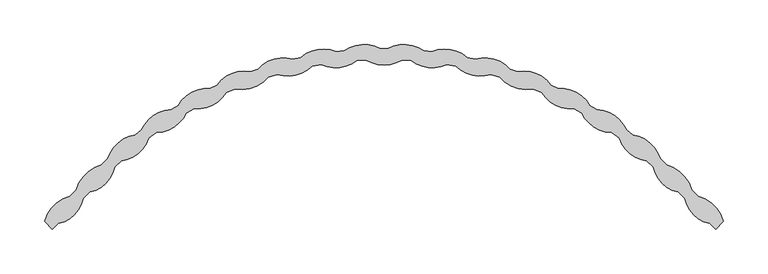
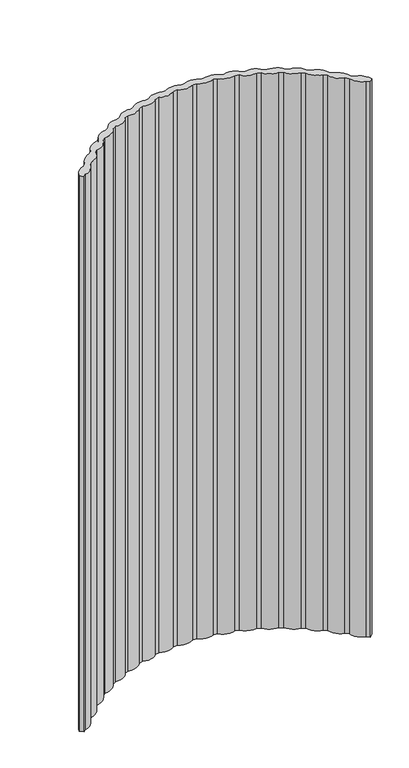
"""IFC4 building model written with IfcOpenShell, lengths in millimetres: furniture geometry, KFI Studios - Calm - Curved Screen : KFI Studios - Calm - Curved Screen."""

from ifc_helpers import new_model, si_unit, point, frame, frame_2d, origin, place, context, project, spatial, polyline, circle_curve, trimmed, segment, composite_curve, outline, extrude, source, transform, mapped, element, save


def furniture_e89c4618(model_context):
    return source(origin(), model_context, "Body", "SweptSolid", [
        extrude(outline(composite_curve([segment(polyline([(337.1527127, -64.1553182), (330.0816327, -57.0840929)]), True, "CONTINUOUS"), segment(trimmed(circle_curve(frame_2d((337.4314511, -21.4497808)), 36.3843926), [point((330.0816327, -57.0840929))], [point((301.8470734, -29.0376716))], False, "CARTESIAN"), True, "CONTINUOUS"), segment(polyline([(301.8470734, -29.0376716), (294.3702042, -22.085214)]), True, "CONTINUOUS"), segment(trimmed(circle_curve(frame_2d((300.3615651, 16.5029535)), 39.0505195), [point((294.3702042, -22.085214))], [point((263.5644356, 3.4295327))], False, "CARTESIAN"), True, "CONTINUOUS"), segment(polyline([(263.5644356, 3.4295327), (255.1727966, 9.6012978)]), True, "CONTINUOUS"), segment(trimmed(circle_curve(frame_2d((256.5646207, 48.4304048)), 38.8540438), [point((255.1727966, 9.6012978))], [point((221.6387062, 31.406386))], False, "CARTESIAN"), True, "CONTINUOUS"), segment(polyline([(221.6387062, 31.406386), (212.593328, 36.5727381)]), True, "CONTINUOUS"), segment(trimmed(circle_curve(frame_2d((209.5123052, 75.3041337)), 38.8537476), [point((212.593328, 36.5727381))], [point((176.7749657, 54.378544))], False, "CARTESIAN"), True, "CONTINUOUS"), segment(polyline([(176.7749657, 54.378544), (167.1959537, 58.4704908)]), True, "CONTINUOUS"), segment(trimmed(circle_curve(frame_2d((160.1402513, 97.8551419)), 40.0116693), [point((167.1959537, 58.4704908))], [point((129.5684448, 72.0423868))], False, "CARTESIAN"), True, "CONTINUOUS"), segment(polyline([(129.5684448, 72.0423868), (119.5823356, 75.0067543)]), True, "CONTINUOUS"), segment(trimmed(circle_curve(frame_2d((107.7390173, 112.0121702)), 38.8544076), [point((119.5823356, 75.0067543))], [point((80.6445961, 84.1633402))], False, "CARTESIAN"), True, "CONTINUOUS"), segment(polyline([(80.6445961, 84.1633402), (70.3838352, 85.9601419)]), True, "CONTINUOUS"), segment(trimmed(circle_curve(frame_2d((54.3653493, 121.358528)), 38.8540555), [point((70.3838352, 85.9601419))], [point((30.6516174, 90.580345))], False, "CARTESIAN"), True, "CONTINUOUS"), segment(polyline([(30.6516174, 90.580345), (20.2522999, 91.1860311)]), True, "CONTINUOUS"), segment(trimmed(circle_curve(frame_2d((0.0, 125.4904344)), 39.8365126), [point((20.2522999, 91.1860311))], [point((-20.2522999, 91.1860311))], False, "CARTESIAN"), True, "CONTINUOUS"), segment(polyline([(-20.2522999, 91.1860311), (-30.6516174, 90.580345)]), True, "CONTINUOUS"), segment(trimmed(circle_curve(frame_2d((-54.3653493, 121.358528)), 38.8540555), [point((-30.6516174, 90.580345))], [point((-70.3838352, 85.9601419))], False, "CARTESIAN"), True, "CONTINUOUS"), segment(polyline([(-70.3838352, 85.9601419), (-80.6445961, 84.1633402)]), True, "CONTINUOUS"), segment(trimmed(circle_curve(frame_2d((-107.7390173, 112.0121702)), 38.8544076), [point((-80.6445961, 84.1633402))], [point((-119.5823356, 75.0067543))], False, "CARTESIAN"), True, "CONTINUOUS"), segment(polyline([(-119.5823356, 75.0067543), (-129.5684448, 72.0423868)]), True, "CONTINUOUS"), segment(trimmed(circle_curve(frame_2d((-160.1402513, 97.8551419)), 40.0116693), [point((-129.5684448, 72.0423868))], [point((-167.1959537, 58.4704908))], False, "CARTESIAN"), True, "CONTINUOUS"), segment(polyline([(-167.1959537, 58.4704908), (-176.7749657, 54.378544)]), True, "CONTINUOUS"), segment(trimmed(circle_curve(frame_2d((-209.5123052, 75.3041337)), 38.8537476), [point((-176.7749657, 54.378544))], [point((-212.593328, 36.5727381))], False, "CARTESIAN"), True, "CONTINUOUS"), segment(polyline([(-212.593328, 36.5727381), (-221.6387062, 31.406386)]), True, "CONTINUOUS"), segment(trimmed(circle_curve(frame_2d((-256.5646207, 48.4304048)), 38.8540438), [point((-221.6387062, 31.406386))], [point((-255.1727966, 9.6012978))], False, "CARTESIAN"), True, "CONTINUOUS"), segment(polyline([(-255.1727966, 9.6012978), (-263.5644356, 3.4295327)]), True, "CONTINUOUS"), segment(trimmed(circle_curve(frame_2d((-300.3615651, 16.5029535)), 39.0505195), [point((-263.5644356, 3.4295327))], [point((-294.3702042, -22.085214))], False, "CARTESIAN"), True, "CONTINUOUS"), segment(polyline([(-294.3702042, -22.085214), (-301.8470734, -29.0376716)]), True, "CONTINUOUS"), segment(trimmed(circle_curve(frame_2d((-337.4314511, -21.4497808)), 36.3843926), [point((-301.8470734, -29.0376716))], [point((-330.0816327, -57.0840929))], False, "CARTESIAN"), True, "CONTINUOUS"), segment(polyline([(-330.0816327, -57.0840929), (-337.1527127, -64.1553182)]), True, "CONTINUOUS"), segment(trimmed(circle_curve(frame_2d((-372.9274756, -56.6648274)), 36.5505282), [point((-337.1527127, -64.1553182))], [point((-365.4371055, -92.4396156))], False, "CARTESIAN"), True, "CONTINUOUS"), segment(polyline([(-365.4371055, -92.4396156), (-371.7967875, -98.7993794), (-380.4705843, -90.1256114)]), True, "CONTINUOUS"), segment(trimmed(circle_curve(frame_2d((-341.824443, -100.5009291)), 40.0146405), [point((-380.4705843, -90.1256114))], [point((-352.1893316, -61.8519895))], False, "CARTESIAN"), True, "CONTINUOUS"), segment(polyline([(-352.1893316, -61.8519895), (-345.1184632, -54.7810976)]), True, "CONTINUOUS"), segment(trimmed(circle_curve(frame_2d((-304.7440758, -66.8760921)), 42.1471239), [point((-345.1184632, -54.7810976))], [point((-316.7590226, -26.4778111))], False, "CARTESIAN"), True, "CONTINUOUS"), segment(polyline([(-316.7590226, -26.4778111), (-309.5767443, -19.51799)]), True, "CONTINUOUS"), segment(trimmed(circle_curve(frame_2d((-273.3319426, -30.4639475)), 37.8615852), [point((-309.5767443, -19.51799))], [point((-278.9842011, 6.9733548))], False, "CARTESIAN"), True, "CONTINUOUS"), segment(polyline([(-278.9842011, 6.9733548), (-271.8628517, 12.4843063)]), True, "CONTINUOUS"), segment(trimmed(circle_curve(frame_2d((-237.0407207, -2.3773242)), 37.8609148), [point((-271.8628517, 12.4843063))], [point((-238.5501501, 35.4534898))], False, "CARTESIAN"), True, "CONTINUOUS"), segment(polyline([(-238.5501501, 35.4534898), (-230.8668229, 40.1496426)]), True, "CONTINUOUS"), segment(trimmed(circle_curve(frame_2d((-197.884941, 21.5551663)), 37.8623703), [point((-230.8668229, 40.1496426))], [point((-195.2353334, 59.3247131))], False, "CARTESIAN"), True, "CONTINUOUS"), segment(polyline([(-195.2353334, 59.3247131), (-187.0837542, 63.1498246)]), True, "CONTINUOUS"), segment(trimmed(circle_curve(frame_2d((-156.3405113, 41.0457581)), 37.8647163), [point((-187.0837542, 63.1498246))], [point((-149.562428, 78.2988698))], False, "CARTESIAN"), True, "CONTINUOUS"), segment(polyline([(-149.562428, 78.2988698), (-141.0398474, 81.2060925)]), True, "CONTINUOUS"), segment(trimmed(circle_curve(frame_2d((-112.9088262, 55.8652257)), 37.8617734), [point((-141.0398474, 81.2060925))], [point((-102.0830148, 92.1462909))], False, "CARTESIAN"), True, "CONTINUOUS"), segment(polyline([(-102.0830148, 92.1462909), (-93.2929056, 94.1007702)]), True, "CONTINUOUS"), segment(trimmed(circle_curve(frame_2d((-67.7020896, 63.3436805)), 40.0111038), [point((-93.2929056, 94.1007702))], [point((-53.370882, 100.700138))], False, "CARTESIAN"), True, "CONTINUOUS"), segment(polyline([(-53.370882, 100.700138), (-44.4193695, 101.6780876)]), True, "CONTINUOUS"), segment(trimmed(circle_curve(frame_2d((-22.493795, 70.8110489)), 37.8616547), [point((-44.4193695, 101.6780876))], [point((-4.0211186, 103.8604834))], False, "CARTESIAN"), True, "CONTINUOUS"), segment(polyline([(-4.0211186, 103.8604834), (3.9926885, 103.8519945)]), True, "CONTINUOUS"), segment(trimmed(circle_curve(frame_2d((22.4806775, 70.8111235)), 37.8616547), [point((3.9926885, 103.8519945))], [point((44.4061495, 101.6782349))], False, "CARTESIAN"), True, "CONTINUOUS"), segment(polyline([(44.4061495, 101.6782349), (53.3576653, 100.700315)]), True, "CONTINUOUS"), segment(trimmed(circle_curve(frame_2d((67.6889968, 63.3439051)), 40.0111038), [point((53.3576653, 100.700315))], [point((93.2797107, 94.1010796))], False, "CARTESIAN"), True, "CONTINUOUS"), segment(polyline([(93.2797107, 94.1010796), (102.0698265, 92.1466295)]), True, "CONTINUOUS"), segment(trimmed(circle_curve(frame_2d((112.8957582, 55.8656002)), 37.8617734), [point((102.0698265, 92.1466295))], [point((141.0266953, 81.2065603))], False, "CARTESIAN"), True, "CONTINUOUS"), segment(polyline([(141.0266953, 81.2065603), (149.5492856, 78.2993659)]), True, "CONTINUOUS"), segment(trimmed(circle_curve(frame_2d((156.3274924, 41.0462767)), 37.8647163), [point((149.5492856, 78.2993659))], [point((187.0706621, 63.1504451))], False, "CARTESIAN"), True, "CONTINUOUS"), segment(polyline([(187.0706621, 63.1504451), (195.2222539, 59.3253607)]), True, "CONTINUOUS"), segment(trimmed(circle_curve(frame_2d((197.8719868, 21.5558227)), 37.8623703), [point((195.2222539, 59.3253607))], [point((230.853807, 40.1504084))], False, "CARTESIAN"), True, "CONTINUOUS"), segment(polyline([(230.853807, 40.1504084), (238.5371498, 35.4542811)]), True, "CONTINUOUS"), segment(trimmed(circle_curve(frame_2d((237.0278459, -2.376538)), 37.8609148), [point((238.5371498, 35.4542811))], [point((271.8499276, 12.4852081))], False, "CARTESIAN"), True, "CONTINUOUS"), segment(polyline([(271.8499276, 12.4852081), (278.9712952, 6.9742802)]), True, "CONTINUOUS"), segment(trimmed(circle_curve(frame_2d((273.319161, -30.4630409)), 37.8615852), [point((278.9712952, 6.9742802))], [point((309.5639264, -19.5169631))], False, "CARTESIAN"), True, "CONTINUOUS"), segment(polyline([(309.5639264, -19.5169631), (316.7462278, -26.4767604)]), True, "CONTINUOUS"), segment(trimmed(circle_curve(frame_2d((304.7314149, -66.8750812)), 42.1471239), [point((316.7462278, -26.4767604))], [point((345.1057622, -54.7799528))], False, "CARTESIAN"), True, "CONTINUOUS"), segment(polyline([(345.1057622, -54.7799528), (352.1766541, -61.8508212)]), True, "CONTINUOUS"), segment(trimmed(circle_curve(frame_2d((341.8118937, -100.4997953)), 40.0146405), [point((352.1766541, -61.8508212))], [point((380.4609176, -90.1352206))], False, "CARTESIAN"), True, "CONTINUOUS"), segment(polyline([(380.4609176, -90.1352206), (371.7967875, -98.7993794), (365.4371055, -92.4396156)]), True, "CONTINUOUS"), segment(trimmed(circle_curve(frame_2d((372.9274756, -56.6648274)), 36.5505282), [point((365.4371055, -92.4396156))], [point((337.1527127, -64.1553182))], False, "CARTESIAN"), True, "CONTINUOUS")], self_intersect=False)), frame((0.0, 0.0, 5.2700272), z_axis=(0.0, 0.0, 1.0), x_axis=(1.0, 0.0, 0.0)), (0.0, 0.0, 1.0), 1524.0003876),
    ])


if __name__ == "__main__":
    model = new_model("IFC4")
    model_context = context("Model", 3, world=origin())
    ifc_project = project(units=[si_unit("LENGTHUNIT", "METRE", prefix="MILLI")], contexts=[model_context])
    site = spatial("IfcSite", under=ifc_project)
    building = spatial("IfcBuilding", under=site)
    placement = place(None, origin())
    furniture_shape = furniture_e89c4618(model_context)
    element("IfcFurniture", 1, ObjectType="KFI Studios - Calm - Curved Screen : KFI Studios - Calm - Curved Screen", at=placement, inside=building, context=model_context, shape_type="MappedRepresentation", body=[
        mapped(furniture_shape, transform((0.0, 0.0, 0.0), x_axis=(1.0, 0.0, 0.0), y_axis=(0.0, 1.0, 0.0), z_axis=(0.0, 0.0, 1.0))),
    ])
    save(model, "model.ifc")
